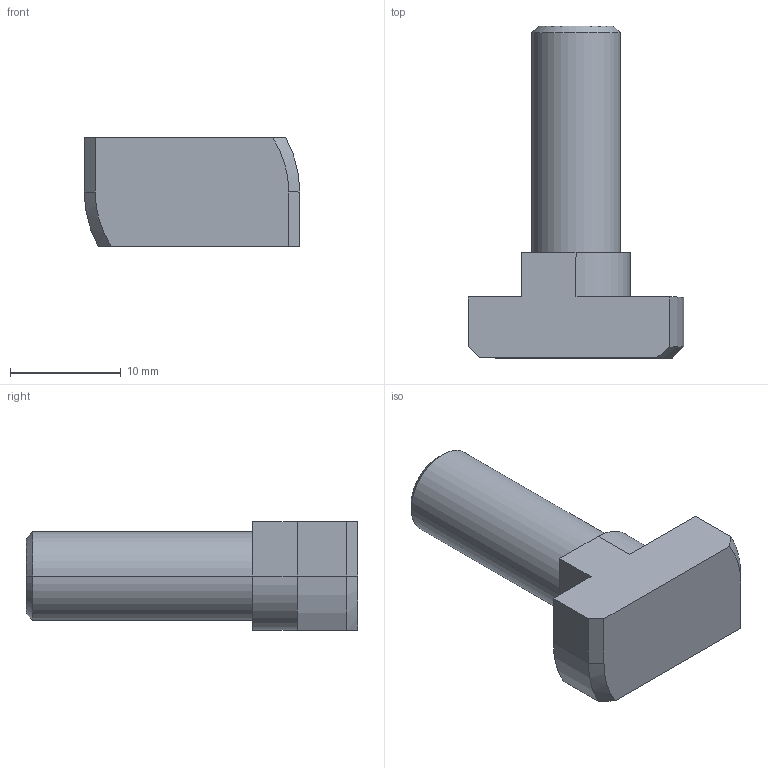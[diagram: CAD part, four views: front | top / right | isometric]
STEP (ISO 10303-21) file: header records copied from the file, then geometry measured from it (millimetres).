
FILE_DESCRIPTION((''),'2;1');
FILE_NAME('VTM082510','2002-12-27T',('Lipro doo'),('Lipro d.o.o.'),'PRO/ENGINEER BY PARAMETRIC TECHNOLOGY CORPORATION, 2001150','PRO/ENGINEER BY PARAMETRIC TECHNOLOGY CORPORATION, 2001150','');
FILE_SCHEMA(('CONFIG_CONTROL_DESIGN'));
Length unit declared in the file: millimetre
Products named in the file (1): VTM082510
Bounding box: 19.5 x 30 x 9.8 mm (x, y, z)
Volume: 2387.7 mm3; surface area: 1754.6 mm2
Topology: 1 solids, 2 shells, 25 faces, 62 edges, 40 vertices
Faces by surface type: plane 13, cylinder 8, cone 4
Entity records: 794 total; most frequent: CARTESIAN_POINT 138, DIRECTION 132, ORIENTED_EDGE 120, EDGE_CURVE 62, AXIS2_PLACEMENT_3D 46, VECTOR 40, LINE 40, VERTEX_POINT 40
